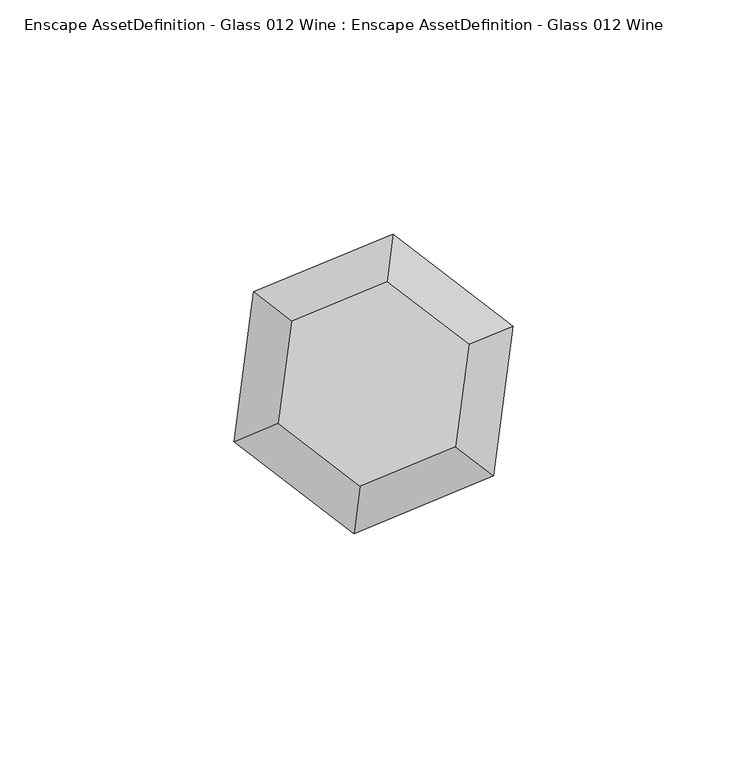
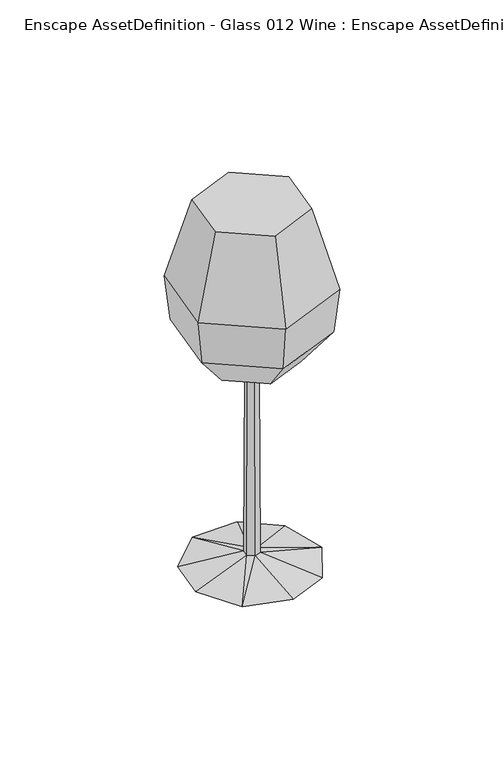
"""IFC4 building model written with IfcOpenShell, lengths in millimetres: geographic element geometry, Enscape AssetDefinition - Glass 012 Wine : Enscape AssetDefinition - Glass 012 Wine."""

from ifc_helpers import new_model, si_unit, origin, place, context, project, spatial, triangles, source, transform, mapped, element, save


def enscape_assetdefinition_glass_012_wine_enscape_47986107(model_context):
    return source(origin(), model_context, "Body", "Tessellation", [
        triangles([(2.3910295, -1.834287, 5.4382962), (-10.5241294, 25.407999, 0.0), (27.2655709, -3.5891906, 0.0), (22.5110306, 15.0690963, 0.0), (8.7290042, 25.6440334, 0.0), (2.7847717, 1.1537062, 5.4382962), (-2.3910295, 1.834287, 5.4382962), (0.3937419, 2.9879933, 5.4382962), (-24.3061563, 11.9604402, 0.0), (-2.4672376, -1.0214005, 84.6312259), (-26.5733462, -5.2625938, 0.0), (-16.7414416, -21.8177498, 0.0), (-0.3482288, -2.6471733, 84.6312259), (-2.7847717, -1.1537062, 5.4382962), (-2.1190092, 1.6257733, 84.6312259), (-16.761553, -6.9434068, 91.7482152), (-14.3938082, 11.0448836, 91.7482152), (-2.3677437, -17.9872322, 91.7482152), (-0.3937419, -2.9879933, 5.4382962), (14.3938082, -11.0448836, 91.7482152), (-3.919426, -29.77197, 106.1060416), (-4.2115565, -31.9936503, 125.1284361), (23.823505, -18.2804226, 106.1060416), (27.7429287, 11.4915497, 106.1060416), (2.3677437, 17.9872322, 91.7482152), (16.761553, 6.9434068, 91.7482152), (25.6006335, -19.6447584, 125.1284361), (20.3803785, 8.4421656, 159.9999903), (17.5014061, -13.4295639, 159.9999903), (29.8132511, 12.3488908, 125.1284361), (3.919426, 29.77197, 106.1060416), (4.2115565, 31.9936503, 125.1284361), (2.8789735, 21.8706718, 159.9999903), (-17.5014061, 13.4295639, 159.9999903), (-2.8789735, -21.8706718, 159.9999903), (-29.8132511, -12.3488908, 125.1284361), (-20.3803785, -8.4421656, 159.9999903), (-25.6006335, 19.6447584, 125.1284361), (-23.823505, 18.2804226, 106.1060416), (-27.7429287, -11.4915497, 106.1060416), (0.3482288, 2.6471733, 84.6312259), (2.4672376, 1.0214005, 84.6312259), (1.7951244, -27.0295366, 0.0), (2.1190092, -1.6257733, 84.6312259), (17.8432843, -20.382495, 0.0)], [[45, 43, 12], [12, 43, 19], [19, 1, 44], [1, 19, 43], [43, 45, 1], [42, 44, 1], [1, 6, 42], [41, 42, 6], [42, 41, 25], [17, 25, 41], [38, 39, 40], [40, 36, 38], [38, 36, 37], [37, 34, 38], [34, 37, 35], [35, 37, 36], [36, 22, 35], [29, 35, 22], [34, 35, 28], [35, 29, 28], [33, 34, 28], [39, 38, 32], [34, 33, 32], [32, 38, 34], [31, 25, 17], [17, 39, 31], [32, 31, 39], [31, 32, 30], [33, 28, 30], [30, 32, 33], [28, 29, 27], [27, 30, 28], [22, 27, 29], [25, 31, 24], [24, 30, 27], [30, 24, 31], [24, 26, 25], [44, 42, 26], [25, 26, 42], [26, 24, 23], [27, 23, 24], [23, 27, 22], [22, 21, 23], [36, 40, 21], [21, 22, 36], [23, 20, 26], [20, 23, 21], [26, 20, 44], [13, 44, 20], [44, 13, 19], [21, 18, 20], [18, 21, 40], [20, 18, 13], [40, 16, 18], [39, 17, 16], [16, 40, 39], [16, 17, 15], [41, 15, 17], [18, 16, 10], [10, 13, 18], [15, 10, 16], [13, 10, 14], [14, 19, 13], [12, 19, 14], [11, 12, 14], [9, 11, 14], [10, 15, 7], [7, 14, 10], [14, 7, 9], [15, 41, 8], [8, 7, 15], [6, 8, 41], [12, 11, 2], [11, 9, 2], [2, 9, 7], [2, 7, 8], [5, 2, 8], [8, 6, 4], [4, 5, 8], [45, 12, 3], [12, 2, 3], [2, 5, 3], [5, 4, 3], [3, 6, 1], [45, 3, 1], [3, 4, 6]]),
    ])


if __name__ == "__main__":
    model = new_model("IFC4")
    model_context = context("Model", 3, world=origin())
    ifc_project = project(units=[si_unit("LENGTHUNIT", "METRE", prefix="MILLI")], contexts=[model_context])
    site = spatial("IfcSite", under=ifc_project)
    building = spatial("IfcBuilding", under=site)
    placement = place(None, origin())
    enscape_assetdefinition_glass_012_wine_enscape_shape = enscape_assetdefinition_glass_012_wine_enscape_47986107(model_context)
    element("IfcGeographicElement", 1, ObjectType="Enscape AssetDefinition - Glass 012 Wine : Enscape AssetDefinition - Glass 012 Wine", at=placement, inside=building, context=model_context, shape_type="MappedRepresentation", body=[
        mapped(enscape_assetdefinition_glass_012_wine_enscape_shape, transform((0.0, 0.0, 0.0), x_axis=(1.0, 0.0, 0.0), y_axis=(0.0, 1.0, 0.0), z_axis=(0.0, 0.0, 1.0))),
    ])
    save(model, "model.ifc")
